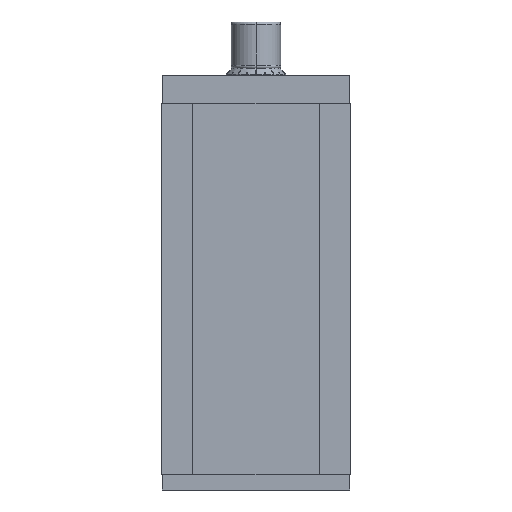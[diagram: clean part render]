
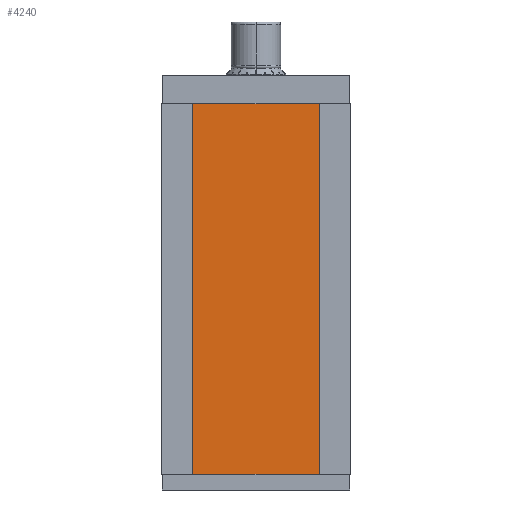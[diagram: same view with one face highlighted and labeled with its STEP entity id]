
A CAD part, front view. The second image highlights one B-rep face of the part: STEP entity #4240.
In plain terms, the highlighted planar face has unit normal (0, -1, 0).
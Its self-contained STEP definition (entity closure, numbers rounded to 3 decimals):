
#2045 = DIRECTION ( 'NONE',  ( 0., 0., -1. ) ) ;
#2046 = VECTOR ( 'NONE', #2045, 1000. ) ;
#2047 = CARTESIAN_POINT ( 'NONE',  ( 41.155, 0., 117.5 ) ) ;
#2048 = LINE ( 'NONE', #2047, #2046 ) ;
#2049 = CARTESIAN_POINT ( 'NONE',  ( 41.155, 0., 117.5 ) ) ;
#2079 = CARTESIAN_POINT ( 'NONE',  ( 41.155, 0., -117.5 ) ) ;
#4187 = VERTEX_POINT ( 'NONE', #7431 ) ;
#4189 = EDGE_CURVE ( 'NONE', #4190, #4187, #7430, .T. ) ;
#4190 = VERTEX_POINT ( 'NONE', #7426 ) ;
#4240 = ADVANCED_FACE ( 'Fl�che15', ( #7489 ), #7488, .F. ) ;
#4241 = EDGE_LOOP ( 'NONE', ( #4242, #4244, #4245, #4247 ) ) ;
#4242 = ORIENTED_EDGE ( 'NONE', *, *, #4243, .T. ) ;
#4243 = EDGE_CURVE ( 'NONE', #4187, #6121, #7483, .T. ) ;
#4244 = ORIENTED_EDGE ( 'NONE', *, *, #6103, .F. ) ;
#4245 = ORIENTED_EDGE ( 'NONE', *, *, #4246, .F. ) ;
#4246 = EDGE_CURVE ( 'NONE', #4190, #6101, #7545, .T. ) ;
#4247 = ORIENTED_EDGE ( 'NONE', *, *, #4189, .T. ) ;
#6101 = VERTEX_POINT ( 'NONE', #2049 ) ;
#6103 = EDGE_CURVE ( 'NONE', #6101, #6121, #2048, .T. ) ;
#6121 = VERTEX_POINT ( 'NONE', #2079 ) ;
#7426 = CARTESIAN_POINT ( 'NONE',  ( -41.155, 0., 117.5 ) ) ;
#7427 = DIRECTION ( 'NONE',  ( 0., 0., -1. ) ) ;
#7428 = VECTOR ( 'NONE', #7427, 1000. ) ;
#7429 = CARTESIAN_POINT ( 'NONE',  ( -41.155, 0., 117.5 ) ) ;
#7430 = LINE ( 'NONE', #7429, #7428 ) ;
#7431 = CARTESIAN_POINT ( 'NONE',  ( -41.155, 0., -117.5 ) ) ;
#7480 = DIRECTION ( 'NONE',  ( 1., 0., 0. ) ) ;
#7481 = VECTOR ( 'NONE', #7480, 1000. ) ;
#7482 = CARTESIAN_POINT ( 'NONE',  ( -41.155, 0., -117.5 ) ) ;
#7483 = LINE ( 'NONE', #7482, #7481 ) ;
#7484 = DIRECTION ( 'NONE',  ( 0., 0., 1. ) ) ;
#7485 = DIRECTION ( 'NONE',  ( 0., 1., 0. ) ) ;
#7486 = CARTESIAN_POINT ( 'NONE',  ( -41.155, 0., 117.5 ) ) ;
#7487 = AXIS2_PLACEMENT_3D ( 'NONE', #7486, #7485, #7484 ) ;
#7488 = PLANE ( 'NONE',  #7487 ) ;
#7489 = FACE_OUTER_BOUND ( 'NONE', #4241, .T. ) ;
#7542 = DIRECTION ( 'NONE',  ( 1., 0., 0. ) ) ;
#7543 = VECTOR ( 'NONE', #7542, 1000. ) ;
#7544 = CARTESIAN_POINT ( 'NONE',  ( -41.155, 0., 117.5 ) ) ;
#7545 = LINE ( 'NONE', #7544, #7543 ) ;
